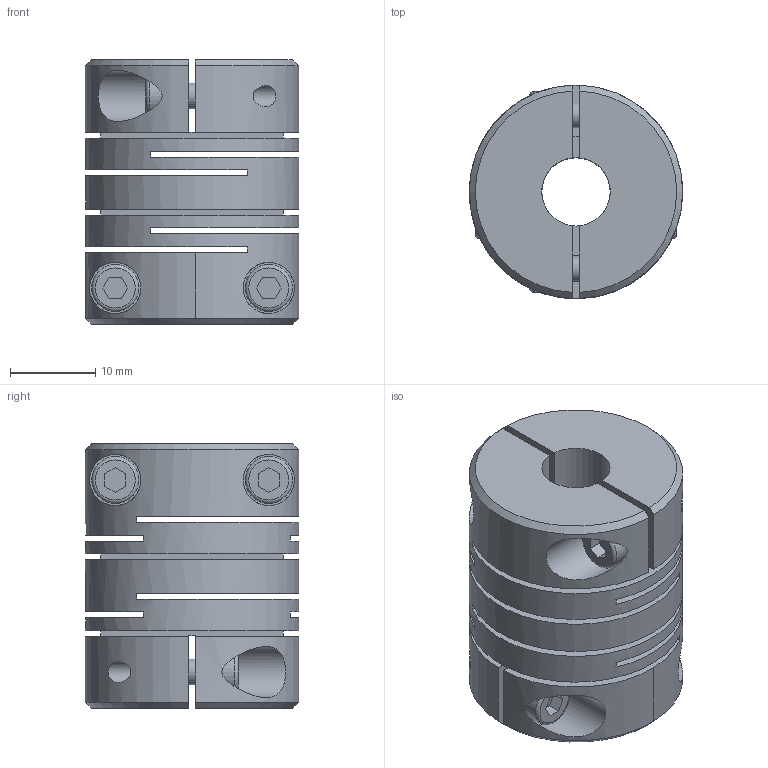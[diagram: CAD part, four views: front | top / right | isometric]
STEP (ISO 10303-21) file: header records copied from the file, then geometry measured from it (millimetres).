
FILE_DESCRIPTION (( 'STEP AP214' ), '1' );
FILE_NAME ('2246-25-B8-10-NI.step', '2022-05-27T09:31:01', ( '' ), ( '' ), 'SwSTEP 2.0', 'SolidWorks 2019', '' );
FILE_SCHEMA (( 'AUTOMOTIVE_DESIGN' ));
Length unit declared in the file: millimetre
Products named in the file (1): 2246-25-B8-10-NI
Bounding box: 25 x 24.99 x 31 mm (x, y, z)
Volume: 11026.5 mm3; surface area: 9334.6 mm2
Topology: 1 solids, 1 shells, 123 faces, 308 edges, 208 vertices
Faces by surface type: plane 79, cylinder 32, cone 8, torus 4
Full cylindrical faces by diameter (mm): 2.5 x4, 3 x4, 3.3 x4, 5.5 x4, 6 x4, 8 x3, 10 x3, 25 x1
Entity records: 4300 total; most frequent: CARTESIAN_POINT 975, DIRECTION 552, ORIENTED_EDGE 476, EDGE_CURVE 238, AXIS2_PLACEMENT_3D 207, EDGE_LOOP 200, VERTEX_POINT 178, FACE_OUTER_BOUND 153
